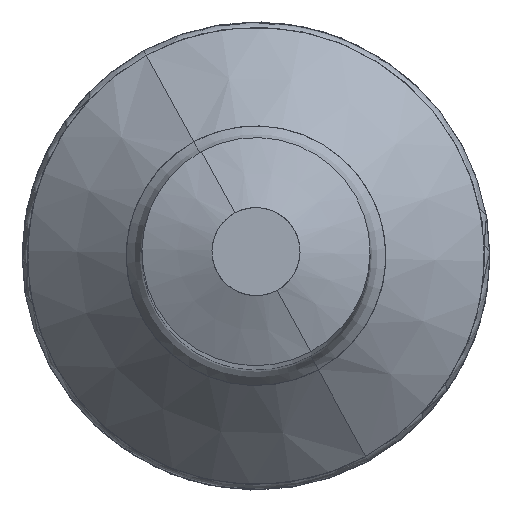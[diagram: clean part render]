
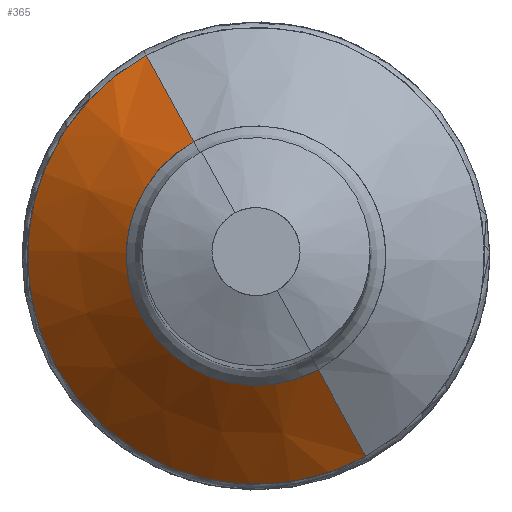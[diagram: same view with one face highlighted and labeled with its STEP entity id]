
A CAD part, top view. The second image highlights one B-rep face of the part: STEP entity #365.
In plain terms, the highlighted conical face has half-angle 45 degrees and reference radius 0 mm.
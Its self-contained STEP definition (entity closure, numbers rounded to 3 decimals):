
#85=B_SPLINE_CURVE_WITH_KNOTS('',3,(#1584,#1585,#1586,#1587),
 .UNSPECIFIED.,.F.,.F.,(4,4),(0.,1.),.UNSPECIFIED.);
#86=B_SPLINE_CURVE_WITH_KNOTS('',3,(#1591,#1592,#1593,#1594),
 .UNSPECIFIED.,.F.,.F.,(4,4),(0.,1.),.UNSPECIFIED.);
#365=ADVANCED_FACE('',(#409),#385,.F.);
#385=CONICAL_SURFACE('',#1032,0.,45.);
#409=FACE_OUTER_BOUND('',#439,.T.);
#439=EDGE_LOOP('',(#570,#571,#572,#573));
#570=ORIENTED_EDGE('',*,*,#818,.T.);
#571=ORIENTED_EDGE('',*,*,#819,.T.);
#572=ORIENTED_EDGE('',*,*,#820,.T.);
#573=ORIENTED_EDGE('',*,*,#821,.T.);
#694=VERTEX_POINT('',#1582);
#695=VERTEX_POINT('',#1583);
#696=VERTEX_POINT('',#1588);
#697=VERTEX_POINT('',#1590);
#818=EDGE_CURVE('',#694,#695,#892,.T.);
#819=EDGE_CURVE('',#695,#696,#85,.T.);
#820=EDGE_CURVE('',#696,#697,#893,.T.);
#821=EDGE_CURVE('',#697,#694,#86,.T.);
#892=CIRCLE('',#1030,7.229);
#893=CIRCLE('',#1031,12.732);
#1030=AXIS2_PLACEMENT_3D('',#1581,#1167,#1168);
#1031=AXIS2_PLACEMENT_3D('',#1589,#1169,#1170);
#1032=AXIS2_PLACEMENT_3D('',#1595,#1171,#1172);
#1167=DIRECTION('',(0.,0.,1.));
#1168=DIRECTION('',(-1.,0.,0.));
#1169=DIRECTION('',(0.,0.,-1.));
#1170=DIRECTION('',(-1.,0.,0.));
#1171=DIRECTION('',(0.,0.,-1.));
#1172=DIRECTION('',(-1.,0.,0.));
#1581=CARTESIAN_POINT('',(0.,0.,10.796));
#1582=CARTESIAN_POINT('',(-3.466,6.344,10.796));
#1583=CARTESIAN_POINT('',(3.466,-6.344,10.796));
#1584=CARTESIAN_POINT('',(3.466,-6.344,10.796));
#1585=CARTESIAN_POINT('',(4.345,-7.954,8.962));
#1586=CARTESIAN_POINT('',(5.225,-9.564,7.127));
#1587=CARTESIAN_POINT('',(6.104,-11.173,5.293));
#1588=CARTESIAN_POINT('',(6.104,-11.173,5.293));
#1589=CARTESIAN_POINT('',(0.,0.,5.293));
#1590=CARTESIAN_POINT('',(-6.104,11.173,5.293));
#1591=CARTESIAN_POINT('',(-6.104,11.173,5.293));
#1592=CARTESIAN_POINT('',(-5.225,9.564,7.127));
#1593=CARTESIAN_POINT('',(-4.345,7.954,8.962));
#1594=CARTESIAN_POINT('',(-3.466,6.344,10.796));
#1595=CARTESIAN_POINT('',(0.,0.,18.025));
